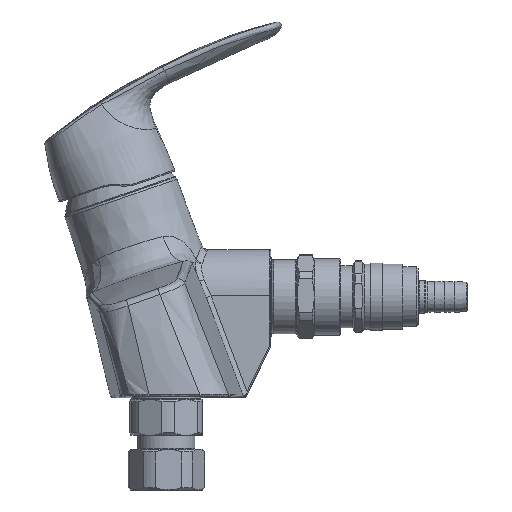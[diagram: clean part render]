
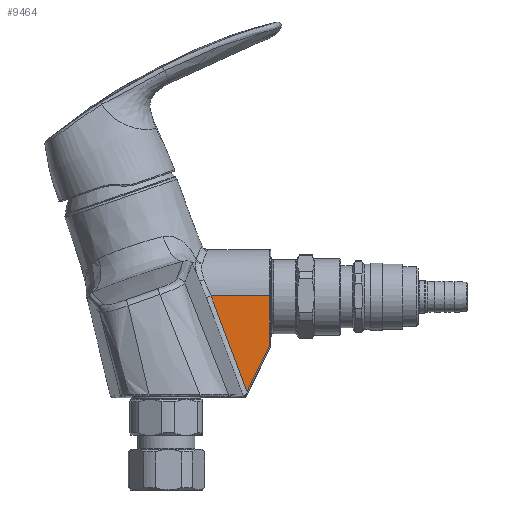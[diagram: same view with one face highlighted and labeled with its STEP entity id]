
A CAD part, left-side view. The second image highlights one B-rep face of the part: STEP entity #9464.
In plain terms, the highlighted planar face has unit normal (-1, 0, 0.018).
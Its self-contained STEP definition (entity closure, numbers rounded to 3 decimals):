
#336 = CARTESIAN_POINT ( 'NONE',  ( -20.587, -34.035, 41.26 ) ) ;
#916 = EDGE_CURVE ( 'NONE', #16039, #15557, #18977, .T. ) ;
#1232 = CARTESIAN_POINT ( 'NONE',  ( -20.352, -29.371, 54.689 ) ) ;
#2126 = PLANE ( 'NONE',  #7844 ) ;
#3826 = DIRECTION ( 'NONE',  ( 0.017, 0., 1. ) ) ;
#4080 = CARTESIAN_POINT ( 'NONE',  ( -20.587, -34.035, 41.26 ) ) ;
#4656 = CARTESIAN_POINT ( 'NONE',  ( -20.12, -24.362, 67.999 ) ) ;
#7221 = CARTESIAN_POINT ( 'NONE',  ( -19.89, 499885.839, 81.17 ) ) ;
#7446 = CARTESIAN_POINT ( 'NONE',  ( -19.89, -43.379, 81.17 ) ) ;
#7844 = AXIS2_PLACEMENT_3D ( 'NONE', #7221, #13833, #3826 ) ;
#7978 = EDGE_CURVE ( 'NONE', #20492, #15557, #9267, .T. ) ;
#8536 = CARTESIAN_POINT ( 'NONE',  ( -20.255, -43.379, 60.238 ) ) ;
#9267 = LINE ( 'NONE', #10818, #9795 ) ;
#9464 = ADVANCED_FACE ( 'NONE', ( #15430 ), #2126, .T. ) ;
#9795 = VECTOR ( 'NONE', #14153, 1000. ) ;
#10527 = EDGE_CURVE ( 'NONE', #16039, #14043, #13187, .T. ) ;
#10818 = CARTESIAN_POINT ( 'NONE',  ( -19.89, 499885.839, 81.17 ) ) ;
#12186 = DIRECTION ( 'NONE',  ( -0.016, 0.442, -0.897 ) ) ;
#12335 = EDGE_LOOP ( 'NONE', ( #13933, #13479, #13201, #12693 ) ) ;
#12693 = ORIENTED_EDGE ( 'NONE', *, *, #10527, .F. ) ;
#12978 = DIRECTION ( 'NONE',  ( 0.017, 0., 1. ) ) ;
#13008 = CARTESIAN_POINT ( 'NONE',  ( -20.587, -34.035, 41.26 ) ) ;
#13187 = LINE ( 'NONE', #336, #18397 ) ;
#13201 = ORIENTED_EDGE ( 'NONE', *, *, #19342, .F. ) ;
#13479 = ORIENTED_EDGE ( 'NONE', *, *, #7978, .F. ) ;
#13833 = DIRECTION ( 'NONE',  ( -1., 0., 0.017 ) ) ;
#13933 = ORIENTED_EDGE ( 'NONE', *, *, #916, .T. ) ;
#14043 = VERTEX_POINT ( 'NONE', #4080 ) ;
#14153 = DIRECTION ( 'NONE',  ( 0., -1., 0. ) ) ;
#14252 = CARTESIAN_POINT ( 'NONE',  ( -19.89, -43.379, 81.17 ) ) ;
#15430 = FACE_OUTER_BOUND ( 'NONE', #12335, .T. ) ;
#15557 = VERTEX_POINT ( 'NONE', #7446 ) ;
#16039 = VERTEX_POINT ( 'NONE', #8536 ) ;
#16191 = CARTESIAN_POINT ( 'NONE',  ( -19.89, -19.012, 81.17 ) ) ;
#17643 = CARTESIAN_POINT ( 'NONE',  ( -19.89, -19.012, 81.17 ) ) ;
#18397 = VECTOR ( 'NONE', #12186, 1000. ) ;
#18977 = LINE ( 'NONE', #14252, #19988 ) ;
#19342 = EDGE_CURVE ( 'NONE', #14043, #20492, #20664, .T. ) ;
#19988 = VECTOR ( 'NONE', #12978, 1000. ) ;
#20492 = VERTEX_POINT ( 'NONE', #17643 ) ;
#20664 = B_SPLINE_CURVE_WITH_KNOTS ( 'NONE', 3,
 ( #13008, #1232, #4656, #16191 ),
 .UNSPECIFIED., .F., .F.,
 ( 4, 4 ),
 ( 0., 1. ),
 .UNSPECIFIED. ) ;
